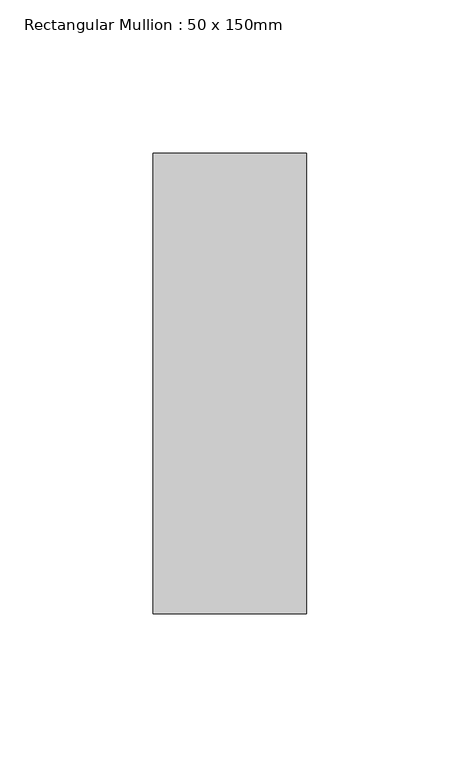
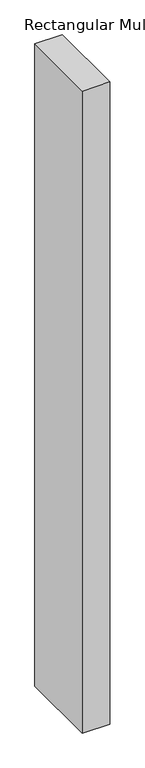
"""IFC4 building model written with IfcOpenShell, lengths in millimetres: member geometry, Rectangular Mullion : 50 x 150mm."""

from ifc_helpers import new_model, si_unit, frame, origin, place, context, project, spatial, polyline, outline, extrude, source, transform, mapped, element, save


def rectangular_mullion_50_x_150mm_66ba6a4f(model_context):
    return source(origin(), model_context, "Body", "SweptSolid", [
        extrude(outline(polyline([(25.0, 75.0), (25.0, -75.0), (-25.0, -75.0), (-25.0, 75.0), (25.0, 75.0)])), frame((0.0, 0.0, -1240.5555556), z_axis=(0.0, 0.0, 1.0), x_axis=(1.0, 0.0, 0.0)), (0.0, 0.0, 1.0), 1240.5555556),
    ])


if __name__ == "__main__":
    model = new_model("IFC4")
    model_context = context("Model", 3, world=origin())
    ifc_project = project(units=[si_unit("LENGTHUNIT", "METRE", prefix="MILLI")], contexts=[model_context])
    site = spatial("IfcSite", under=ifc_project)
    building = spatial("IfcBuilding", under=site)
    placement = place(None, origin())
    rectangular_mullion_50_x_150mm_shape = rectangular_mullion_50_x_150mm_66ba6a4f(model_context)
    element("IfcMember", 1, ObjectType="Rectangular Mullion : 50 x 150mm", at=placement, inside=building, context=model_context, shape_type="MappedRepresentation", body=[
        mapped(rectangular_mullion_50_x_150mm_shape, transform((0.0, 0.0, 0.0), x_axis=(1.0, 0.0, 0.0), y_axis=(0.0, 1.0, 0.0), z_axis=(0.0, 0.0, 1.0))),
    ])
    save(model, "model.ifc")
